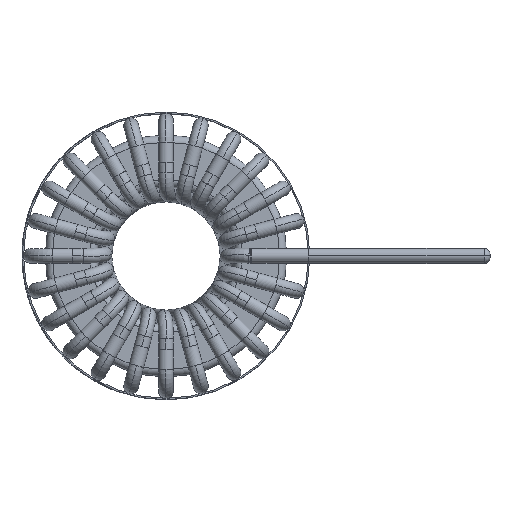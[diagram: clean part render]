
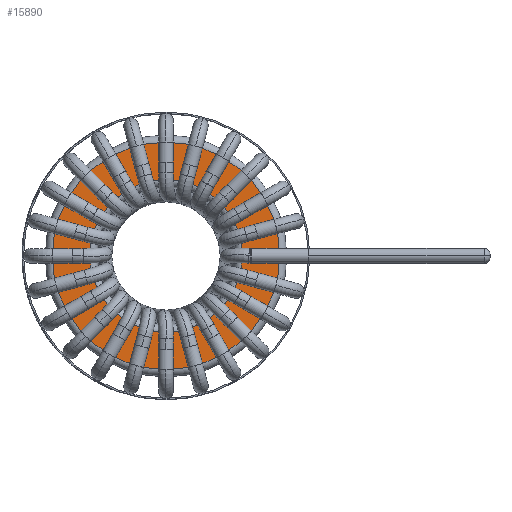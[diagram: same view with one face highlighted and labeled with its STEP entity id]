
A CAD part, top view. The second image highlights one B-rep face of the part: STEP entity #15890.
In plain terms, the highlighted planar face has unit normal (0, 0, 1).
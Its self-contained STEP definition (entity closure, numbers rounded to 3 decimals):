
#420 = ORIENTED_EDGE ( 'NONE', *, *, #30161, .T. ) ;
#1022 = FACE_OUTER_BOUND ( 'NONE', #30033, .T. ) ;
#2148 = CARTESIAN_POINT ( 'NONE',  ( 15.9, 0., 11.6 ) ) ;
#2500 = CARTESIAN_POINT ( 'NONE',  ( 0., 0., 11.6 ) ) ;
#3876 = DIRECTION ( 'NONE',  ( 1., 0., 0. ) ) ;
#4538 = AXIS2_PLACEMENT_3D ( 'NONE', #18045, #5279, #28193 ) ;
#5279 = DIRECTION ( 'NONE',  ( 0., 0., -1. ) ) ;
#5348 = EDGE_CURVE ( 'NONE', #27565, #21337, #6893, .T. ) ;
#5477 = AXIS2_PLACEMENT_3D ( 'NONE', #10259, #15528, #20642 ) ;
#5607 = EDGE_CURVE ( 'NONE', #21337, #27565, #13687, .T. ) ;
#6893 = CIRCLE ( 'NONE', #14474, 10.65 ) ;
#7872 = DIRECTION ( 'NONE',  ( 0., 0., 1. ) ) ;
#8350 = CIRCLE ( 'NONE', #5477, 15.9 ) ;
#10099 = CARTESIAN_POINT ( 'NONE',  ( -15.9, 0., 11.6 ) ) ;
#10259 = CARTESIAN_POINT ( 'NONE',  ( 0., 0., 11.6 ) ) ;
#10884 = CARTESIAN_POINT ( 'NONE',  ( 0., 0., 11.6 ) ) ;
#11681 = EDGE_LOOP ( 'NONE', ( #28880, #32651 ) ) ;
#13687 = CIRCLE ( 'NONE', #4538, 10.65 ) ;
#14474 = AXIS2_PLACEMENT_3D ( 'NONE', #22370, #30018, #3876 ) ;
#15528 = DIRECTION ( 'NONE',  ( 0., 0., 1. ) ) ;
#15672 = DIRECTION ( 'NONE',  ( 1., 0., 0. ) ) ;
#15836 = DIRECTION ( 'NONE',  ( 1., 0., 0. ) ) ;
#15890 = ADVANCED_FACE ( 'NONE', ( #19165, #1022 ), #28796, .T. ) ;
#16207 = CIRCLE ( 'NONE', #32456, 15.9 ) ;
#16677 = VERTEX_POINT ( 'NONE', #10099 ) ;
#16887 = CARTESIAN_POINT ( 'NONE',  ( 10.65, 0., 11.6 ) ) ;
#17074 = VERTEX_POINT ( 'NONE', #2148 ) ;
#18045 = CARTESIAN_POINT ( 'NONE',  ( 0., 0., 11.6 ) ) ;
#18447 = DIRECTION ( 'NONE',  ( 0., 0., 1. ) ) ;
#19165 = FACE_BOUND ( 'NONE', #11681, .T. ) ;
#20377 = ORIENTED_EDGE ( 'NONE', *, *, #25725, .T. ) ;
#20642 = DIRECTION ( 'NONE',  ( 1., 0., 0. ) ) ;
#21337 = VERTEX_POINT ( 'NONE', #16887 ) ;
#22370 = CARTESIAN_POINT ( 'NONE',  ( 0., 0., 11.6 ) ) ;
#25725 = EDGE_CURVE ( 'NONE', #17074, #16677, #8350, .T. ) ;
#26478 = CARTESIAN_POINT ( 'NONE',  ( -10.65, 0., 11.6 ) ) ;
#27565 = VERTEX_POINT ( 'NONE', #26478 ) ;
#28193 = DIRECTION ( 'NONE',  ( 1., 0., 0. ) ) ;
#28796 = PLANE ( 'NONE',  #32316 ) ;
#28880 = ORIENTED_EDGE ( 'NONE', *, *, #5607, .T. ) ;
#30018 = DIRECTION ( 'NONE',  ( 0., 0., -1. ) ) ;
#30033 = EDGE_LOOP ( 'NONE', ( #20377, #420 ) ) ;
#30161 = EDGE_CURVE ( 'NONE', #16677, #17074, #16207, .T. ) ;
#32316 = AXIS2_PLACEMENT_3D ( 'NONE', #10884, #18447, #15836 ) ;
#32456 = AXIS2_PLACEMENT_3D ( 'NONE', #2500, #7872, #15672 ) ;
#32651 = ORIENTED_EDGE ( 'NONE', *, *, #5348, .T. ) ;
